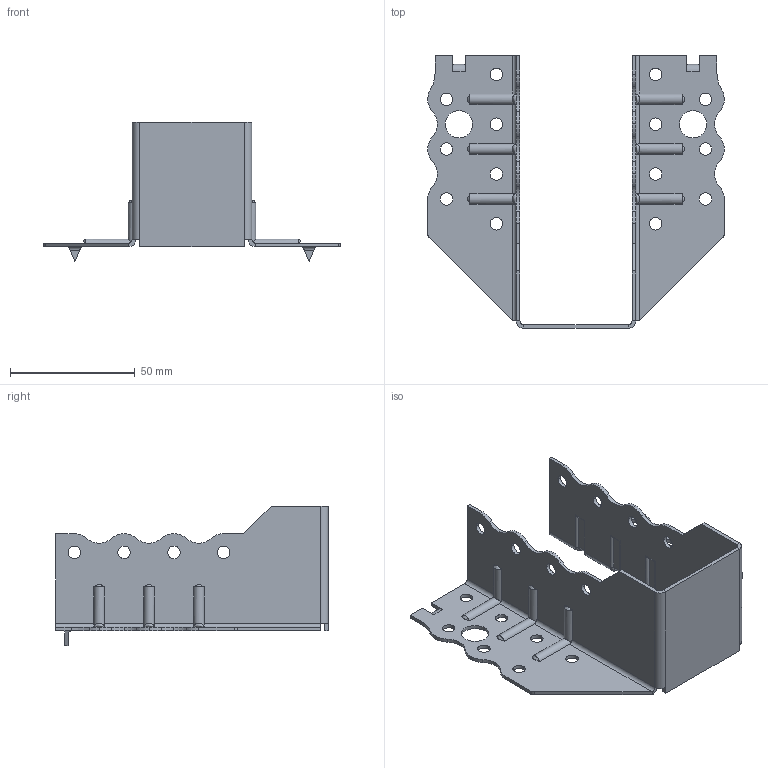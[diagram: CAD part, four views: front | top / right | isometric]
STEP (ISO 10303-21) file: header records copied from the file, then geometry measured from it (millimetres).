
FILE_DESCRIPTION (( 'STEP AP203' ), '1' );
FILE_NAME ('30602TOPK.STEP', '2021-04-08T12:58:03', ( '' ), ( '' ), 'SwSTEP 2.0', 'SolidWorks 2013', '' );
FILE_SCHEMA (( 'CONFIG_CONTROL_DESIGN' ));
Length unit declared in the file: millimetre
Products named in the file (1): 30602TOPK
Bounding box: 119 x 109.5 x 56 mm (x, y, z)
Volume: 24769.3 mm3; surface area: 35181.8 mm2
Topology: 1 solids, 1 shells, 263 faces, 691 edges, 430 vertices
Faces by surface type: cylinder 164, plane 75, torus 12, bspline 12
Entity records: 9602 total; most frequent: CARTESIAN_POINT 3011, ORIENTED_EDGE 1382, DIRECTION 1349, EDGE_CURVE 691, AXIS2_PLACEMENT_3D 492, VERTEX_POINT 430, LINE 365, VECTOR 365
